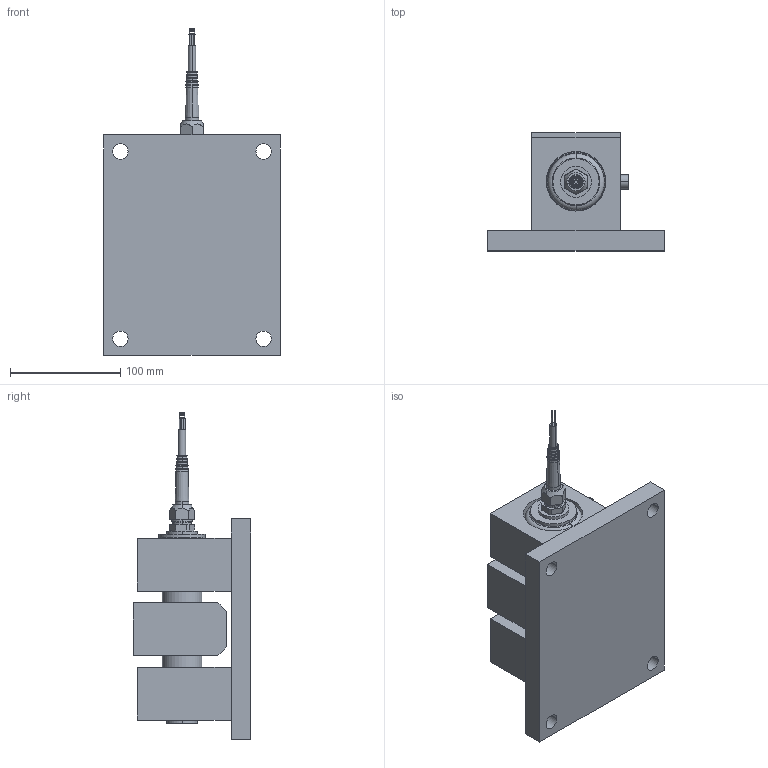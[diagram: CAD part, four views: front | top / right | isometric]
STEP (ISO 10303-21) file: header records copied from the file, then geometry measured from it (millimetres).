
FILE_DESCRIPTION (( 'STEP AP214' ), '1' );
FILE_NAME ('KDH-5 20-50-100 kN Module.STEP', '2021-04-20T11:54:32', ( '' ), ( '' ), 'SwSTEP 2.0', 'SolidWorks 2021', '' );
FILE_SCHEMA (( 'AUTOMOTIVE_DESIGN' ));
Length unit declared in the file: millimetre
Products named in the file (13): Pg9 - 1009.52 6_2_14; Fäste KDH-5  100 kN left; Bracket KDH-5 200-100 kN; Fäste KDH-5  100 kN right; Wiberger-din912_m8x20; Element KOSD-5 100 kN ; OK KDH-5 100 kN; Kabel  70 mm; KDH-5 20-50-100 kN Module; Bottenplatta KDH-5 100 kN; M26 lock med mejselspår; ~~PART1; M26x1.5 - Pg9 - 6369829
Assembly tree (13 placements, depth 3):
  KDH-5 20-50-100 kN Module
    Element KOSD-5 100 kN 
    M26 lock med mejselspår
      ~~PART1
    Kabel  70 mm
    M26x1.5 - Pg9 - 6369829
    Pg9 - 1009.52 6_2_14
    Bracket KDH-5 200-100 kN
      Bottenplatta KDH-5 100 kN
      Fäste KDH-5  100 kN left
      Fäste KDH-5  100 kN right
    OK KDH-5 100 kN
    Wiberger-din912_m8x20  x2
Bounding box: 160 x 107 x 296.5 mm (x, y, z)
Volume: 1480184.1 mm3; surface area: 225578.1 mm2
Topology: 11 solids, 14 shells, 369 faces, 804 edges, 480 vertices
Faces by surface type: cylinder 116, plane 110, cone 71, torus 42, bspline 30
Entity records: 11603 total; most frequent: CARTESIAN_POINT 2482, DIRECTION 1762, ORIENTED_EDGE 1478, AXIS2_PLACEMENT_3D 745, EDGE_CURVE 739, VERTEX_POINT 453, CIRCLE 416, EDGE_LOOP 394
